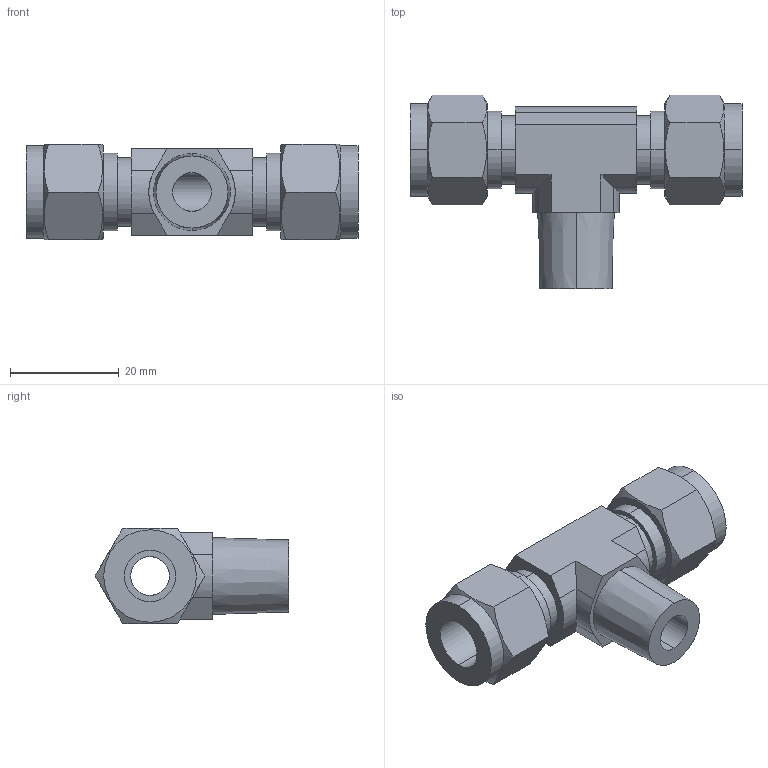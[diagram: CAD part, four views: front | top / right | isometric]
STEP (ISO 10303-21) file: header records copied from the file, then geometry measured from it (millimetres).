
FILE_DESCRIPTION (( 'STEP AP203' ), '1' );
FILE_NAME ('DTN 06-04 SS.STEP', '2009-09-08T10:09:32', ( 'Your User Name' ), ( 'Your Company Name' ), 'SwSTEP 2.0', 'SolidWorks 2008', '' );
FILE_SCHEMA (( 'CONFIG_CONTROL_DESIGN' ));
Length unit declared in the file: millimetre
Products named in the file (1): DTN 06-04 SS
Bounding box: 61 x 35.58 x 17.46 mm (x, y, z)
Volume: 12076.1 mm3; surface area: 7036.2 mm2
Topology: 1 solids, 1 shells, 72 faces, 174 edges, 112 vertices
Faces by surface type: plane 36, cylinder 26, cone 10
Entity records: 2387 total; most frequent: CARTESIAN_POINT 643, ORIENTED_EDGE 348, DIRECTION 336, EDGE_CURVE 174, AXIS2_PLACEMENT_3D 125, VERTEX_POINT 112, VECTOR 86, LINE 86
